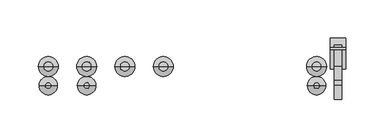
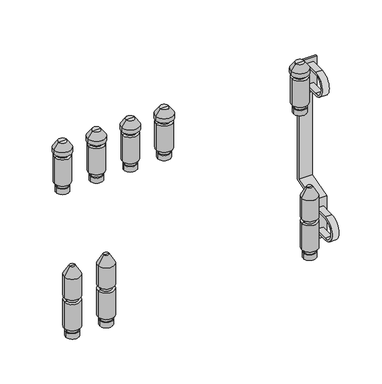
"""IFC4 building model written with IfcOpenShell, lengths in millimetres: valve geometry, PL CZ_Manifold_FT-VA : 08 circuits."""

from ifc_helpers import new_model, si_unit, point, frame, frame_2d, origin, origin_2d, place, context, project, spatial, polyline, circle_curve, trimmed, segment, composite_curve, outline, extrude, source, transform, mapped, element, save
from ifc_brep_helpers import plane_surface, cylinder_surface, revolved_surface, advanced_brep


def valve_9c135178(model_context):
    return source(origin(), model_context, "Body", "SolidModel", [
        advanced_brep(
        [(178.5, 25.0, 174.88733), (197.5, 25.0, 174.88733), (188.0, 25.0, 174.88733), (178.5, 25.0, 182.9630354), (197.5, 25.0, 182.9630354), (180.0, 25.0, 182.9630354), (196.0, 25.0, 182.9630354), (180.0, 25.0, 189.669747), (196.0, 25.0, 189.669747), (176.0, 25.0, 189.669747), (200.0, 25.0, 189.669747), (176.0, 25.0, 230.330253), (200.0, 25.0, 230.330253), (180.0, 25.0, 230.330253), (196.0, 25.0, 230.330253), (180.0, 25.0, 236.0474786), (196.0, 25.0, 236.0474786), (175.0, 25.0, 236.0474786), (201.0, 25.0, 236.0474786), (175.0, 25.0, 242.337955), (201.0, 25.0, 242.337955), (181.6551779, 25.0, 251.842534), (194.3448221, 25.0, 251.842534), (188.0, 25.0, 251.842534)],
        [
            (0, 1, circle_curve(frame((188.0, 25.0, 174.88733), z_axis=(0.0, 0.0, -1.0), x_axis=(1.0, 0.0, 0.0)), 9.5)),
            (1, 2),
            (2, 0),
            (1, 0, circle_curve(frame((188.0, 25.0, 174.88733), z_axis=(0.0, 0.0, -1.0), x_axis=(1.0, 0.0, 0.0)), 9.5)),
            (3, 4, circle_curve(frame((188.0, 25.0, 182.9630354), z_axis=(0.0, 0.0, -1.0), x_axis=(1.0, 0.0, 0.0)), 9.5)),
            (4, 1),
            (0, 3),
            (4, 3, circle_curve(frame((188.0, 25.0, 182.9630354), z_axis=(0.0, 0.0, -1.0), x_axis=(1.0, 0.0, 0.0)), 9.5)),
            (5, 6, circle_curve(frame((188.0, 25.0, 182.9630354), z_axis=(0.0, 0.0, -1.0), x_axis=(1.0, 0.0, 0.0)), 8.0)),
            (6, 4),
            (3, 5),
            (6, 5, circle_curve(frame((188.0, 25.0, 182.9630354), z_axis=(0.0, 0.0, -1.0), x_axis=(1.0, 0.0, 0.0)), 8.0)),
            (7, 8, circle_curve(frame((188.0, 25.0, 189.669747), z_axis=(0.0, 0.0, -1.0), x_axis=(1.0, 0.0, 0.0)), 8.0)),
            (8, 6),
            (5, 7),
            (8, 7, circle_curve(frame((188.0, 25.0, 189.669747), z_axis=(0.0, 0.0, -1.0), x_axis=(1.0, 0.0, 0.0)), 8.0)),
            (9, 10, circle_curve(frame((188.0, 25.0, 189.669747), z_axis=(0.0, 0.0, -1.0), x_axis=(1.0, 0.0, 0.0)), 12.0)),
            (10, 8),
            (7, 9),
            (10, 9, circle_curve(frame((188.0, 25.0, 189.669747), z_axis=(0.0, 0.0, -1.0), x_axis=(1.0, 0.0, 0.0)), 12.0)),
            (11, 12, circle_curve(frame((188.0, 25.0, 230.330253), z_axis=(0.0, 0.0, -1.0), x_axis=(1.0, 0.0, 0.0)), 12.0)),
            (12, 10),
            (9, 11),
            (12, 11, circle_curve(frame((188.0, 25.0, 230.330253), z_axis=(0.0, 0.0, -1.0), x_axis=(1.0, 0.0, 0.0)), 12.0)),
            (13, 14, circle_curve(frame((188.0, 25.0, 230.330253), z_axis=(0.0, 0.0, -1.0), x_axis=(1.0, 0.0, 0.0)), 8.0)),
            (14, 12),
            (11, 13),
            (14, 13, circle_curve(frame((188.0, 25.0, 230.330253), z_axis=(0.0, 0.0, -1.0), x_axis=(1.0, 0.0, 0.0)), 8.0)),
            (15, 16, circle_curve(frame((188.0, 25.0, 236.0474786), z_axis=(0.0, 0.0, -1.0), x_axis=(1.0, 0.0, 0.0)), 8.0)),
            (16, 14),
            (13, 15),
            (16, 15, circle_curve(frame((188.0, 25.0, 236.0474786), z_axis=(0.0, 0.0, -1.0), x_axis=(1.0, 0.0, 0.0)), 8.0)),
            (17, 18, circle_curve(frame((188.0, 25.0, 236.0474786), z_axis=(0.0, 0.0, -1.0), x_axis=(1.0, 0.0, 0.0)), 13.0)),
            (18, 16),
            (15, 17),
            (18, 17, circle_curve(frame((188.0, 25.0, 236.0474786), z_axis=(0.0, 0.0, -1.0), x_axis=(1.0, 0.0, 0.0)), 13.0)),
            (19, 20, circle_curve(frame((188.0, 25.0, 242.337955), z_axis=(0.0, 0.0, -1.0), x_axis=(1.0, 0.0, 0.0)), 13.0)),
            (20, 18),
            (17, 19),
            (20, 19, circle_curve(frame((188.0, 25.0, 242.337955), z_axis=(0.0, 0.0, -1.0), x_axis=(1.0, 0.0, 0.0)), 13.0)),
            (21, 22, circle_curve(frame((188.0, 25.0, 251.842534), z_axis=(0.0, 0.0, -1.0), x_axis=(1.0, 0.0, 0.0)), 6.3448221)),
            (22, 20),
            (19, 21),
            (22, 21, circle_curve(frame((188.0, 25.0, 251.842534), z_axis=(0.0, 0.0, -1.0), x_axis=(1.0, 0.0, 0.0)), 6.3448221)),
            (23, 22),
            (21, 23),
        ],
        [
            plane_surface(frame((188.0, 25.0, 174.88733), z_axis=(0.0, 0.0, -1.0), x_axis=(1.0, 0.0, 0.0))),
            cylinder_surface(frame((188.0, 25.0, 247.7026565), z_axis=(0.0, 0.0, 1.0), x_axis=(1.0, 0.0, 0.0)), 9.5),
            plane_surface(frame((188.0, 25.0, 182.9630354), z_axis=(0.0, 0.0, 1.0), x_axis=(1.0, 0.0, 0.0))),
            cylinder_surface(frame((188.0, 25.0, 247.7026565), z_axis=(0.0, 0.0, 1.0), x_axis=(1.0, 0.0, 0.0)), 8.0),
            plane_surface(frame((188.0, 25.0, 189.669747), z_axis=(0.0, 0.0, -1.0), x_axis=(1.0, 0.0, 0.0))),
            cylinder_surface(frame((188.0, 25.0, 247.7026565), z_axis=(0.0, 0.0, 1.0), x_axis=(1.0, 0.0, 0.0)), 12.0),
            plane_surface(frame((188.0, 25.0, 230.330253), z_axis=(0.0, 0.0, 1.0), x_axis=(1.0, 0.0, 0.0))),
            plane_surface(frame((188.0, 25.0, 236.0474786), z_axis=(0.0, 0.0, -1.0), x_axis=(1.0, 0.0, 0.0))),
            cylinder_surface(frame((188.0, 25.0, 247.7026565), z_axis=(0.0, 0.0, 1.0), x_axis=(1.0, 0.0, 0.0)), 13.0),
            revolved_surface(polyline([(201.0, 25.0, 242.337955), (194.3448221, 25.0, 251.842534)]), (188.0, 25.0, 247.7026565), (0.0, 0.0, 1.0)),
            plane_surface(frame((188.0, 25.0, 251.842534), z_axis=(0.0, 0.0, 1.0), x_axis=(1.0, 0.0, 0.0))),
        ],
        [
            (0, [[1, 2, 3]]),
            (0, [[4, -3, -2]]),
            (1, [[5, 6, -1, 7]]),
            (1, [[8, -7, -4, -6]]),
            (2, [[9, 10, -5, 11]]),
            (2, [[12, -11, -8, -10]]),
            (3, [[13, 14, -9, 15]]),
            (3, [[16, -15, -12, -14]]),
            (4, [[17, 18, -13, 19]]),
            (4, [[20, -19, -16, -18]]),
            (5, [[21, 22, -17, 23]]),
            (5, [[24, -23, -20, -22]]),
            (6, [[25, 26, -21, 27]]),
            (6, [[28, -27, -24, -26]]),
            (3, [[29, 30, -25, 31]]),
            (3, [[32, -31, -28, -30]]),
            (7, [[33, 34, -29, 35]]),
            (7, [[36, -35, -32, -34]]),
            (8, [[37, 38, -33, 39]]),
            (8, [[40, -39, -36, -38]]),
            (9, [[41, 42, -37, 43]]),
            (9, [[44, -43, -40, -42]]),
            (10, [[45, -41, 46]]),
            (10, [[-46, -44, -45]]),
        ],
    ),
        advanced_brep(
        [(128.5, 25.0, 174.88733), (147.5, 25.0, 174.88733), (138.0, 25.0, 174.88733), (128.5, 25.0, 182.9630354), (147.5, 25.0, 182.9630354), (130.0, 25.0, 182.9630354), (146.0, 25.0, 182.9630354), (130.0, 25.0, 189.669747), (146.0, 25.0, 189.669747), (126.0, 25.0, 189.669747), (150.0, 25.0, 189.669747), (126.0, 25.0, 230.330253), (150.0, 25.0, 230.330253), (130.0, 25.0, 230.330253), (146.0, 25.0, 230.330253), (130.0, 25.0, 236.0474786), (146.0, 25.0, 236.0474786), (125.0, 25.0, 236.0474786), (151.0, 25.0, 236.0474786), (125.0, 25.0, 242.337955), (151.0, 25.0, 242.337955), (131.6551779, 25.0, 251.842534), (144.3448221, 25.0, 251.842534), (138.0, 25.0, 251.842534)],
        [
            (0, 1, circle_curve(frame((138.0, 25.0, 174.88733), z_axis=(0.0, 0.0, -1.0), x_axis=(1.0, 0.0, 0.0)), 9.5)),
            (1, 2),
            (2, 0),
            (1, 0, circle_curve(frame((138.0, 25.0, 174.88733), z_axis=(0.0, 0.0, -1.0), x_axis=(1.0, 0.0, 0.0)), 9.5)),
            (3, 4, circle_curve(frame((138.0, 25.0, 182.9630354), z_axis=(0.0, 0.0, -1.0), x_axis=(1.0, 0.0, 0.0)), 9.5)),
            (4, 1),
            (0, 3),
            (4, 3, circle_curve(frame((138.0, 25.0, 182.9630354), z_axis=(0.0, 0.0, -1.0), x_axis=(1.0, 0.0, 0.0)), 9.5)),
            (5, 6, circle_curve(frame((138.0, 25.0, 182.9630354), z_axis=(0.0, 0.0, -1.0), x_axis=(1.0, 0.0, 0.0)), 8.0)),
            (6, 4),
            (3, 5),
            (6, 5, circle_curve(frame((138.0, 25.0, 182.9630354), z_axis=(0.0, 0.0, -1.0), x_axis=(1.0, 0.0, 0.0)), 8.0)),
            (7, 8, circle_curve(frame((138.0, 25.0, 189.669747), z_axis=(0.0, 0.0, -1.0), x_axis=(1.0, 0.0, 0.0)), 8.0)),
            (8, 6),
            (5, 7),
            (8, 7, circle_curve(frame((138.0, 25.0, 189.669747), z_axis=(0.0, 0.0, -1.0), x_axis=(1.0, 0.0, 0.0)), 8.0)),
            (9, 10, circle_curve(frame((138.0, 25.0, 189.669747), z_axis=(0.0, 0.0, -1.0), x_axis=(1.0, 0.0, 0.0)), 12.0)),
            (10, 8),
            (7, 9),
            (10, 9, circle_curve(frame((138.0, 25.0, 189.669747), z_axis=(0.0, 0.0, -1.0), x_axis=(1.0, 0.0, 0.0)), 12.0)),
            (11, 12, circle_curve(frame((138.0, 25.0, 230.330253), z_axis=(0.0, 0.0, -1.0), x_axis=(1.0, 0.0, 0.0)), 12.0)),
            (12, 10),
            (9, 11),
            (12, 11, circle_curve(frame((138.0, 25.0, 230.330253), z_axis=(0.0, 0.0, -1.0), x_axis=(1.0, 0.0, 0.0)), 12.0)),
            (13, 14, circle_curve(frame((138.0, 25.0, 230.330253), z_axis=(0.0, 0.0, -1.0), x_axis=(1.0, 0.0, 0.0)), 8.0)),
            (14, 12),
            (11, 13),
            (14, 13, circle_curve(frame((138.0, 25.0, 230.330253), z_axis=(0.0, 0.0, -1.0), x_axis=(1.0, 0.0, 0.0)), 8.0)),
            (15, 16, circle_curve(frame((138.0, 25.0, 236.0474786), z_axis=(0.0, 0.0, -1.0), x_axis=(1.0, 0.0, 0.0)), 8.0)),
            (16, 14),
            (13, 15),
            (16, 15, circle_curve(frame((138.0, 25.0, 236.0474786), z_axis=(0.0, 0.0, -1.0), x_axis=(1.0, 0.0, 0.0)), 8.0)),
            (17, 18, circle_curve(frame((138.0, 25.0, 236.0474786), z_axis=(0.0, 0.0, -1.0), x_axis=(1.0, 0.0, 0.0)), 13.0)),
            (18, 16),
            (15, 17),
            (18, 17, circle_curve(frame((138.0, 25.0, 236.0474786), z_axis=(0.0, 0.0, -1.0), x_axis=(1.0, 0.0, 0.0)), 13.0)),
            (19, 20, circle_curve(frame((138.0, 25.0, 242.337955), z_axis=(0.0, 0.0, -1.0), x_axis=(1.0, 0.0, 0.0)), 13.0)),
            (20, 18),
            (17, 19),
            (20, 19, circle_curve(frame((138.0, 25.0, 242.337955), z_axis=(0.0, 0.0, -1.0), x_axis=(1.0, 0.0, 0.0)), 13.0)),
            (21, 22, circle_curve(frame((138.0, 25.0, 251.842534), z_axis=(0.0, 0.0, -1.0), x_axis=(1.0, 0.0, 0.0)), 6.3448221)),
            (22, 20),
            (19, 21),
            (22, 21, circle_curve(frame((138.0, 25.0, 251.842534), z_axis=(0.0, 0.0, -1.0), x_axis=(1.0, 0.0, 0.0)), 6.3448221)),
            (23, 22),
            (21, 23),
        ],
        [
            plane_surface(frame((138.0, 25.0, 174.88733), z_axis=(0.0, 0.0, -1.0), x_axis=(1.0, 0.0, 0.0))),
            cylinder_surface(frame((138.0, 25.0, 247.7026565), z_axis=(0.0, 0.0, 1.0), x_axis=(1.0, 0.0, 0.0)), 9.5),
            plane_surface(frame((138.0, 25.0, 182.9630354), z_axis=(0.0, 0.0, 1.0), x_axis=(1.0, 0.0, 0.0))),
            cylinder_surface(frame((138.0, 25.0, 247.7026565), z_axis=(0.0, 0.0, 1.0), x_axis=(1.0, 0.0, 0.0)), 8.0),
            plane_surface(frame((138.0, 25.0, 189.669747), z_axis=(0.0, 0.0, -1.0), x_axis=(1.0, 0.0, 0.0))),
            cylinder_surface(frame((138.0, 25.0, 247.7026565), z_axis=(0.0, 0.0, 1.0), x_axis=(1.0, 0.0, 0.0)), 12.0),
            plane_surface(frame((138.0, 25.0, 230.330253), z_axis=(0.0, 0.0, 1.0), x_axis=(1.0, 0.0, 0.0))),
            plane_surface(frame((138.0, 25.0, 236.0474786), z_axis=(0.0, 0.0, -1.0), x_axis=(1.0, 0.0, 0.0))),
            cylinder_surface(frame((138.0, 25.0, 247.7026565), z_axis=(0.0, 0.0, 1.0), x_axis=(1.0, 0.0, 0.0)), 13.0),
            revolved_surface(polyline([(151.0, 25.0, 242.337955), (144.3448221, 25.0, 251.842534)]), (138.0, 25.0, 247.7026565), (0.0, 0.0, 1.0)),
            plane_surface(frame((138.0, 25.0, 251.842534), z_axis=(0.0, 0.0, 1.0), x_axis=(1.0, 0.0, 0.0))),
        ],
        [
            (0, [[1, 2, 3]]),
            (0, [[4, -3, -2]]),
            (1, [[5, 6, -1, 7]]),
            (1, [[8, -7, -4, -6]]),
            (2, [[9, 10, -5, 11]]),
            (2, [[12, -11, -8, -10]]),
            (3, [[13, 14, -9, 15]]),
            (3, [[16, -15, -12, -14]]),
            (4, [[17, 18, -13, 19]]),
            (4, [[20, -19, -16, -18]]),
            (5, [[21, 22, -17, 23]]),
            (5, [[24, -23, -20, -22]]),
            (6, [[25, 26, -21, 27]]),
            (6, [[28, -27, -24, -26]]),
            (3, [[29, 30, -25, 31]]),
            (3, [[32, -31, -28, -30]]),
            (7, [[33, 34, -29, 35]]),
            (7, [[36, -35, -32, -34]]),
            (8, [[37, 38, -33, 39]]),
            (8, [[40, -39, -36, -38]]),
            (9, [[41, 42, -37, 43]]),
            (9, [[44, -43, -40, -42]]),
            (10, [[45, -41, 46]]),
            (10, [[-46, -44, -45]]),
        ],
    ),
        advanced_brep(
        [(78.5, 0.0, -35.11267), (97.5, 0.0, -35.11267), (88.0, 0.0, -35.11267), (78.5, 0.0, -27.0369646), (97.5, 0.0, -27.0369646), (80.0, 0.0, -27.0369646), (96.0, 0.0, -27.0369646), (80.0, 0.0, -20.330253), (96.0, 0.0, -20.330253), (76.0, 0.0, -20.330253), (100.0, 0.0, -20.330253), (76.0, 0.0, 20.330253), (100.0, 0.0, 20.330253), (80.0, 0.0, 20.330253), (96.0, 0.0, 20.330253), (80.0, 0.0, 27.0474786), (96.0, 0.0, 27.0474786), (76.0, 0.0, 27.0474786), (100.0, 0.0, 27.0474786), (76.0, 0.0, 59.4084325), (100.0, 0.0, 59.4084325), (84.0, 0.0, 73.264839), (92.0, 0.0, 73.264839), (88.0, 0.0, 73.264839)],
        [
            (0, 1, circle_curve(frame((88.0, 0.0, -35.11267), z_axis=(0.0, 0.0, -1.0), x_axis=(1.0, 0.0, 0.0)), 9.5)),
            (1, 2),
            (2, 0),
            (1, 0, circle_curve(frame((88.0, 0.0, -35.11267), z_axis=(0.0, 0.0, -1.0), x_axis=(1.0, 0.0, 0.0)), 9.5)),
            (3, 4, circle_curve(frame((88.0, 0.0, -27.0369646), z_axis=(0.0, 0.0, -1.0), x_axis=(1.0, 0.0, 0.0)), 9.5)),
            (4, 1),
            (0, 3),
            (4, 3, circle_curve(frame((88.0, 0.0, -27.0369646), z_axis=(0.0, 0.0, -1.0), x_axis=(1.0, 0.0, 0.0)), 9.5)),
            (5, 6, circle_curve(frame((88.0, 0.0, -27.0369646), z_axis=(0.0, 0.0, -1.0), x_axis=(1.0, 0.0, 0.0)), 8.0)),
            (6, 4),
            (3, 5),
            (6, 5, circle_curve(frame((88.0, 0.0, -27.0369646), z_axis=(0.0, 0.0, -1.0), x_axis=(1.0, 0.0, 0.0)), 8.0)),
            (7, 8, circle_curve(frame((88.0, 0.0, -20.330253), z_axis=(0.0, 0.0, -1.0), x_axis=(1.0, 0.0, 0.0)), 8.0)),
            (8, 6),
            (5, 7),
            (8, 7, circle_curve(frame((88.0, 0.0, -20.330253), z_axis=(0.0, 0.0, -1.0), x_axis=(1.0, 0.0, 0.0)), 8.0)),
            (9, 10, circle_curve(frame((88.0, 0.0, -20.330253), z_axis=(0.0, 0.0, -1.0), x_axis=(1.0, 0.0, 0.0)), 12.0)),
            (10, 8),
            (7, 9),
            (10, 9, circle_curve(frame((88.0, 0.0, -20.330253), z_axis=(0.0, 0.0, -1.0), x_axis=(1.0, 0.0, 0.0)), 12.0)),
            (11, 12, circle_curve(frame((88.0, 0.0, 20.330253), z_axis=(0.0, 0.0, -1.0), x_axis=(1.0, 0.0, 0.0)), 12.0)),
            (12, 10),
            (9, 11),
            (12, 11, circle_curve(frame((88.0, 0.0, 20.330253), z_axis=(0.0, 0.0, -1.0), x_axis=(1.0, 0.0, 0.0)), 12.0)),
            (13, 14, circle_curve(frame((88.0, 0.0, 20.330253), z_axis=(0.0, 0.0, -1.0), x_axis=(1.0, 0.0, 0.0)), 8.0)),
            (14, 12),
            (11, 13),
            (14, 13, circle_curve(frame((88.0, 0.0, 20.330253), z_axis=(0.0, 0.0, -1.0), x_axis=(1.0, 0.0, 0.0)), 8.0)),
            (15, 16, circle_curve(frame((88.0, 0.0, 27.0474786), z_axis=(0.0, 0.0, -1.0), x_axis=(1.0, 0.0, 0.0)), 8.0)),
            (16, 14),
            (13, 15),
            (16, 15, circle_curve(frame((88.0, 0.0, 27.0474786), z_axis=(0.0, 0.0, -1.0), x_axis=(1.0, 0.0, 0.0)), 8.0)),
            (17, 18, circle_curve(frame((88.0, 0.0, 27.0474786), z_axis=(0.0, 0.0, -1.0), x_axis=(1.0, 0.0, 0.0)), 12.0)),
            (18, 16),
            (15, 17),
            (18, 17, circle_curve(frame((88.0, 0.0, 27.0474786), z_axis=(0.0, 0.0, -1.0), x_axis=(1.0, 0.0, 0.0)), 12.0)),
            (19, 20, circle_curve(frame((88.0, 0.0, 59.4084325), z_axis=(0.0, 0.0, -1.0), x_axis=(1.0, 0.0, 0.0)), 12.0)),
            (20, 18),
            (17, 19),
            (20, 19, circle_curve(frame((88.0, 0.0, 59.4084325), z_axis=(0.0, 0.0, -1.0), x_axis=(1.0, 0.0, 0.0)), 12.0)),
            (21, 22, circle_curve(frame((88.0, 0.0, 73.264839), z_axis=(0.0, 0.0, -1.0), x_axis=(1.0, 0.0, 0.0)), 4.0)),
            (22, 20),
            (19, 21),
            (22, 21, circle_curve(frame((88.0, 0.0, 73.264839), z_axis=(0.0, 0.0, -1.0), x_axis=(1.0, 0.0, 0.0)), 4.0)),
            (23, 22),
            (21, 23),
        ],
        [
            plane_surface(frame((88.0, 0.0, -35.11267), z_axis=(0.0, 0.0, -1.0), x_axis=(1.0, 0.0, 0.0))),
            cylinder_surface(frame((88.0, 0.0, 58.264839), z_axis=(0.0, 0.0, 1.0), x_axis=(1.0, 0.0, 0.0)), 9.5),
            plane_surface(frame((88.0, 0.0, -27.0369646), z_axis=(0.0, 0.0, 1.0), x_axis=(1.0, 0.0, 0.0))),
            cylinder_surface(frame((88.0, 0.0, 58.264839), z_axis=(0.0, 0.0, 1.0), x_axis=(1.0, 0.0, 0.0)), 8.0),
            plane_surface(frame((88.0, 0.0, -20.330253), z_axis=(0.0, 0.0, -1.0), x_axis=(1.0, 0.0, 0.0))),
            cylinder_surface(frame((88.0, 0.0, 58.264839), z_axis=(0.0, 0.0, 1.0), x_axis=(1.0, 0.0, 0.0)), 12.0),
            plane_surface(frame((88.0, 0.0, 20.330253), z_axis=(0.0, 0.0, 1.0), x_axis=(1.0, 0.0, 0.0))),
            plane_surface(frame((88.0, 0.0, 27.0474786), z_axis=(0.0, 0.0, -1.0), x_axis=(1.0, 0.0, 0.0))),
            revolved_surface(polyline([(100.0, 0.0, 59.4084325), (92.0, 0.0, 73.264839)]), (88.0, 0.0, 58.264839), (0.0, 0.0, 1.0)),
            plane_surface(frame((88.0, 0.0, 73.264839), z_axis=(0.0, 0.0, 1.0), x_axis=(1.0, 0.0, 0.0))),
        ],
        [
            (0, [[1, 2, 3]]),
            (0, [[4, -3, -2]]),
            (1, [[5, 6, -1, 7]]),
            (1, [[8, -7, -4, -6]]),
            (2, [[9, 10, -5, 11]]),
            (2, [[12, -11, -8, -10]]),
            (3, [[13, 14, -9, 15]]),
            (3, [[16, -15, -12, -14]]),
            (4, [[17, 18, -13, 19]]),
            (4, [[20, -19, -16, -18]]),
            (5, [[21, 22, -17, 23]]),
            (5, [[24, -23, -20, -22]]),
            (6, [[25, 26, -21, 27]]),
            (6, [[28, -27, -24, -26]]),
            (3, [[29, 30, -25, 31]]),
            (3, [[32, -31, -28, -30]]),
            (7, [[33, 34, -29, 35]]),
            (7, [[36, -35, -32, -34]]),
            (5, [[37, 38, -33, 39]]),
            (5, [[40, -39, -36, -38]]),
            (8, [[41, 42, -37, 43]]),
            (8, [[44, -43, -40, -42]]),
            (9, [[45, -41, 46]]),
            (9, [[-46, -44, -45]]),
        ],
    ),
        advanced_brep(
        [(78.5, 25.0, 174.88733), (97.5, 25.0, 174.88733), (88.0, 25.0, 174.88733), (78.5, 25.0, 182.9630354), (97.5, 25.0, 182.9630354), (80.0, 25.0, 182.9630354), (96.0, 25.0, 182.9630354), (80.0, 25.0, 189.669747), (96.0, 25.0, 189.669747), (76.0, 25.0, 189.669747), (100.0, 25.0, 189.669747), (76.0, 25.0, 230.330253), (100.0, 25.0, 230.330253), (80.0, 25.0, 230.330253), (96.0, 25.0, 230.330253), (80.0, 25.0, 236.0474786), (96.0, 25.0, 236.0474786), (75.0, 25.0, 236.0474786), (101.0, 25.0, 236.0474786), (75.0, 25.0, 242.337955), (101.0, 25.0, 242.337955), (81.6551779, 25.0, 251.842534), (94.3448221, 25.0, 251.842534), (88.0, 25.0, 251.842534)],
        [
            (0, 1, circle_curve(frame((88.0, 25.0, 174.88733), z_axis=(0.0, 0.0, -1.0), x_axis=(1.0, 0.0, 0.0)), 9.5)),
            (1, 2),
            (2, 0),
            (1, 0, circle_curve(frame((88.0, 25.0, 174.88733), z_axis=(0.0, 0.0, -1.0), x_axis=(1.0, 0.0, 0.0)), 9.5)),
            (3, 4, circle_curve(frame((88.0, 25.0, 182.9630354), z_axis=(0.0, 0.0, -1.0), x_axis=(1.0, 0.0, 0.0)), 9.5)),
            (4, 1),
            (0, 3),
            (4, 3, circle_curve(frame((88.0, 25.0, 182.9630354), z_axis=(0.0, 0.0, -1.0), x_axis=(1.0, 0.0, 0.0)), 9.5)),
            (5, 6, circle_curve(frame((88.0, 25.0, 182.9630354), z_axis=(0.0, 0.0, -1.0), x_axis=(1.0, 0.0, 0.0)), 8.0)),
            (6, 4),
            (3, 5),
            (6, 5, circle_curve(frame((88.0, 25.0, 182.9630354), z_axis=(0.0, 0.0, -1.0), x_axis=(1.0, 0.0, 0.0)), 8.0)),
            (7, 8, circle_curve(frame((88.0, 25.0, 189.669747), z_axis=(0.0, 0.0, -1.0), x_axis=(1.0, 0.0, 0.0)), 8.0)),
            (8, 6),
            (5, 7),
            (8, 7, circle_curve(frame((88.0, 25.0, 189.669747), z_axis=(0.0, 0.0, -1.0), x_axis=(1.0, 0.0, 0.0)), 8.0)),
            (9, 10, circle_curve(frame((88.0, 25.0, 189.669747), z_axis=(0.0, 0.0, -1.0), x_axis=(1.0, 0.0, 0.0)), 12.0)),
            (10, 8),
            (7, 9),
            (10, 9, circle_curve(frame((88.0, 25.0, 189.669747), z_axis=(0.0, 0.0, -1.0), x_axis=(1.0, 0.0, 0.0)), 12.0)),
            (11, 12, circle_curve(frame((88.0, 25.0, 230.330253), z_axis=(0.0, 0.0, -1.0), x_axis=(1.0, 0.0, 0.0)), 12.0)),
            (12, 10),
            (9, 11),
            (12, 11, circle_curve(frame((88.0, 25.0, 230.330253), z_axis=(0.0, 0.0, -1.0), x_axis=(1.0, 0.0, 0.0)), 12.0)),
            (13, 14, circle_curve(frame((88.0, 25.0, 230.330253), z_axis=(0.0, 0.0, -1.0), x_axis=(1.0, 0.0, 0.0)), 8.0)),
            (14, 12),
            (11, 13),
            (14, 13, circle_curve(frame((88.0, 25.0, 230.330253), z_axis=(0.0, 0.0, -1.0), x_axis=(1.0, 0.0, 0.0)), 8.0)),
            (15, 16, circle_curve(frame((88.0, 25.0, 236.0474786), z_axis=(0.0, 0.0, -1.0), x_axis=(1.0, 0.0, 0.0)), 8.0)),
            (16, 14),
            (13, 15),
            (16, 15, circle_curve(frame((88.0, 25.0, 236.0474786), z_axis=(0.0, 0.0, -1.0), x_axis=(1.0, 0.0, 0.0)), 8.0)),
            (17, 18, circle_curve(frame((88.0, 25.0, 236.0474786), z_axis=(0.0, 0.0, -1.0), x_axis=(1.0, 0.0, 0.0)), 13.0)),
            (18, 16),
            (15, 17),
            (18, 17, circle_curve(frame((88.0, 25.0, 236.0474786), z_axis=(0.0, 0.0, -1.0), x_axis=(1.0, 0.0, 0.0)), 13.0)),
            (19, 20, circle_curve(frame((88.0, 25.0, 242.337955), z_axis=(0.0, 0.0, -1.0), x_axis=(1.0, 0.0, 0.0)), 13.0)),
            (20, 18),
            (17, 19),
            (20, 19, circle_curve(frame((88.0, 25.0, 242.337955), z_axis=(0.0, 0.0, -1.0), x_axis=(1.0, 0.0, 0.0)), 13.0)),
            (21, 22, circle_curve(frame((88.0, 25.0, 251.842534), z_axis=(0.0, 0.0, -1.0), x_axis=(1.0, 0.0, 0.0)), 6.3448221)),
            (22, 20),
            (19, 21),
            (22, 21, circle_curve(frame((88.0, 25.0, 251.842534), z_axis=(0.0, 0.0, -1.0), x_axis=(1.0, 0.0, 0.0)), 6.3448221)),
            (23, 22),
            (21, 23),
        ],
        [
            plane_surface(frame((88.0, 25.0, 174.88733), z_axis=(0.0, 0.0, -1.0), x_axis=(1.0, 0.0, 0.0))),
            cylinder_surface(frame((88.0, 25.0, 247.7026565), z_axis=(0.0, 0.0, 1.0), x_axis=(1.0, 0.0, 0.0)), 9.5),
            plane_surface(frame((88.0, 25.0, 182.9630354), z_axis=(0.0, 0.0, 1.0), x_axis=(1.0, 0.0, 0.0))),
            cylinder_surface(frame((88.0, 25.0, 247.7026565), z_axis=(0.0, 0.0, 1.0), x_axis=(1.0, 0.0, 0.0)), 8.0),
            plane_surface(frame((88.0, 25.0, 189.669747), z_axis=(0.0, 0.0, -1.0), x_axis=(1.0, 0.0, 0.0))),
            cylinder_surface(frame((88.0, 25.0, 247.7026565), z_axis=(0.0, 0.0, 1.0), x_axis=(1.0, 0.0, 0.0)), 12.0),
            plane_surface(frame((88.0, 25.0, 230.330253), z_axis=(0.0, 0.0, 1.0), x_axis=(1.0, 0.0, 0.0))),
            plane_surface(frame((88.0, 25.0, 236.0474786), z_axis=(0.0, 0.0, -1.0), x_axis=(1.0, 0.0, 0.0))),
            cylinder_surface(frame((88.0, 25.0, 247.7026565), z_axis=(0.0, 0.0, 1.0), x_axis=(1.0, 0.0, 0.0)), 13.0),
            revolved_surface(polyline([(101.0, 25.0, 242.337955), (94.3448221, 25.0, 251.842534)]), (88.0, 25.0, 247.7026565), (0.0, 0.0, 1.0)),
            plane_surface(frame((88.0, 25.0, 251.842534), z_axis=(0.0, 0.0, 1.0), x_axis=(1.0, 0.0, 0.0))),
        ],
        [
            (0, [[1, 2, 3]]),
            (0, [[4, -3, -2]]),
            (1, [[5, 6, -1, 7]]),
            (1, [[8, -7, -4, -6]]),
            (2, [[9, 10, -5, 11]]),
            (2, [[12, -11, -8, -10]]),
            (3, [[13, 14, -9, 15]]),
            (3, [[16, -15, -12, -14]]),
            (4, [[17, 18, -13, 19]]),
            (4, [[20, -19, -16, -18]]),
            (5, [[21, 22, -17, 23]]),
            (5, [[24, -23, -20, -22]]),
            (6, [[25, 26, -21, 27]]),
            (6, [[28, -27, -24, -26]]),
            (3, [[29, 30, -25, 31]]),
            (3, [[32, -31, -28, -30]]),
            (7, [[33, 34, -29, 35]]),
            (7, [[36, -35, -32, -34]]),
            (8, [[37, 38, -33, 39]]),
            (8, [[40, -39, -36, -38]]),
            (9, [[41, 42, -37, 43]]),
            (9, [[44, -43, -40, -42]]),
            (10, [[45, -41, 46]]),
            (10, [[-46, -44, -45]]),
        ],
    ),
        advanced_brep(
        [(378.5, 0.0, -35.11267), (397.5, 0.0, -35.11267), (388.0, 0.0, -35.11267), (378.5, 0.0, -27.0369646), (397.5, 0.0, -27.0369646), (380.0, 0.0, -27.0369646), (396.0, 0.0, -27.0369646), (380.0, 0.0, -20.330253), (396.0, 0.0, -20.330253), (376.0, 0.0, -20.330253), (400.0, 0.0, -20.330253), (376.0, 0.0, 20.330253), (400.0, 0.0, 20.330253), (380.0, 0.0, 20.330253), (396.0, 0.0, 20.330253), (380.0, 0.0, 27.0474786), (396.0, 0.0, 27.0474786), (376.0, 0.0, 27.0474786), (400.0, 0.0, 27.0474786), (376.0, 0.0, 59.4084325), (400.0, 0.0, 59.4084325), (384.0, 0.0, 73.264839), (392.0, 0.0, 73.264839), (388.0, 0.0, 73.264839)],
        [
            (0, 1, circle_curve(frame((388.0, 0.0, -35.11267), z_axis=(0.0, 0.0, -1.0), x_axis=(1.0, 0.0, 0.0)), 9.5)),
            (1, 2),
            (2, 0),
            (1, 0, circle_curve(frame((388.0, 0.0, -35.11267), z_axis=(0.0, 0.0, -1.0), x_axis=(1.0, 0.0, 0.0)), 9.5)),
            (3, 4, circle_curve(frame((388.0, 0.0, -27.0369646), z_axis=(0.0, 0.0, -1.0), x_axis=(1.0, 0.0, 0.0)), 9.5)),
            (4, 1),
            (0, 3),
            (4, 3, circle_curve(frame((388.0, 0.0, -27.0369646), z_axis=(0.0, 0.0, -1.0), x_axis=(1.0, 0.0, 0.0)), 9.5)),
            (5, 6, circle_curve(frame((388.0, 0.0, -27.0369646), z_axis=(0.0, 0.0, -1.0), x_axis=(1.0, 0.0, 0.0)), 8.0)),
            (6, 4),
            (3, 5),
            (6, 5, circle_curve(frame((388.0, 0.0, -27.0369646), z_axis=(0.0, 0.0, -1.0), x_axis=(1.0, 0.0, 0.0)), 8.0)),
            (7, 8, circle_curve(frame((388.0, 0.0, -20.330253), z_axis=(0.0, 0.0, -1.0), x_axis=(1.0, 0.0, 0.0)), 8.0)),
            (8, 6),
            (5, 7),
            (8, 7, circle_curve(frame((388.0, 0.0, -20.330253), z_axis=(0.0, 0.0, -1.0), x_axis=(1.0, 0.0, 0.0)), 8.0)),
            (9, 10, circle_curve(frame((388.0, 0.0, -20.330253), z_axis=(0.0, 0.0, -1.0), x_axis=(1.0, 0.0, 0.0)), 12.0)),
            (10, 8),
            (7, 9),
            (10, 9, circle_curve(frame((388.0, 0.0, -20.330253), z_axis=(0.0, 0.0, -1.0), x_axis=(1.0, 0.0, 0.0)), 12.0)),
            (11, 12, circle_curve(frame((388.0, 0.0, 20.330253), z_axis=(0.0, 0.0, -1.0), x_axis=(1.0, 0.0, 0.0)), 12.0)),
            (12, 10),
            (9, 11),
            (12, 11, circle_curve(frame((388.0, 0.0, 20.330253), z_axis=(0.0, 0.0, -1.0), x_axis=(1.0, 0.0, 0.0)), 12.0)),
            (13, 14, circle_curve(frame((388.0, 0.0, 20.330253), z_axis=(0.0, 0.0, -1.0), x_axis=(1.0, 0.0, 0.0)), 8.0)),
            (14, 12),
            (11, 13),
            (14, 13, circle_curve(frame((388.0, 0.0, 20.330253), z_axis=(0.0, 0.0, -1.0), x_axis=(1.0, 0.0, 0.0)), 8.0)),
            (15, 16, circle_curve(frame((388.0, 0.0, 27.0474786), z_axis=(0.0, 0.0, -1.0), x_axis=(1.0, 0.0, 0.0)), 8.0)),
            (16, 14),
            (13, 15),
            (16, 15, circle_curve(frame((388.0, 0.0, 27.0474786), z_axis=(0.0, 0.0, -1.0), x_axis=(1.0, 0.0, 0.0)), 8.0)),
            (17, 18, circle_curve(frame((388.0, 0.0, 27.0474786), z_axis=(0.0, 0.0, -1.0), x_axis=(1.0, 0.0, 0.0)), 12.0)),
            (18, 16),
            (15, 17),
            (18, 17, circle_curve(frame((388.0, 0.0, 27.0474786), z_axis=(0.0, 0.0, -1.0), x_axis=(1.0, 0.0, 0.0)), 12.0)),
            (19, 20, circle_curve(frame((388.0, 0.0, 59.4084325), z_axis=(0.0, 0.0, -1.0), x_axis=(1.0, 0.0, 0.0)), 12.0)),
            (20, 18),
            (17, 19),
            (20, 19, circle_curve(frame((388.0, 0.0, 59.4084325), z_axis=(0.0, 0.0, -1.0), x_axis=(1.0, 0.0, 0.0)), 12.0)),
            (21, 22, circle_curve(frame((388.0, 0.0, 73.264839), z_axis=(0.0, 0.0, -1.0), x_axis=(1.0, 0.0, 0.0)), 4.0)),
            (22, 20),
            (19, 21),
            (22, 21, circle_curve(frame((388.0, 0.0, 73.264839), z_axis=(0.0, 0.0, -1.0), x_axis=(1.0, 0.0, 0.0)), 4.0)),
            (23, 22),
            (21, 23),
        ],
        [
            plane_surface(frame((388.0, 0.0, -35.11267), z_axis=(0.0, 0.0, -1.0), x_axis=(1.0, 0.0, 0.0))),
            cylinder_surface(frame((388.0, 0.0, 58.264839), z_axis=(0.0, 0.0, 1.0), x_axis=(1.0, 0.0, 0.0)), 9.5),
            plane_surface(frame((388.0, 0.0, -27.0369646), z_axis=(0.0, 0.0, 1.0), x_axis=(1.0, 0.0, 0.0))),
            cylinder_surface(frame((388.0, 0.0, 58.264839), z_axis=(0.0, 0.0, 1.0), x_axis=(1.0, 0.0, 0.0)), 8.0),
            plane_surface(frame((388.0, 0.0, -20.330253), z_axis=(0.0, 0.0, -1.0), x_axis=(1.0, 0.0, 0.0))),
            cylinder_surface(frame((388.0, 0.0, 58.264839), z_axis=(0.0, 0.0, 1.0), x_axis=(1.0, 0.0, 0.0)), 12.0),
            plane_surface(frame((388.0, 0.0, 20.330253), z_axis=(0.0, 0.0, 1.0), x_axis=(1.0, 0.0, 0.0))),
            plane_surface(frame((388.0, 0.0, 27.0474786), z_axis=(0.0, 0.0, -1.0), x_axis=(1.0, 0.0, 0.0))),
            revolved_surface(polyline([(400.0, 0.0, 59.4084325), (392.0, 0.0, 73.264839)]), (388.0, 0.0, 58.264839), (0.0, 0.0, 1.0)),
            plane_surface(frame((388.0, 0.0, 73.264839), z_axis=(0.0, 0.0, 1.0), x_axis=(1.0, 0.0, 0.0))),
        ],
        [
            (0, [[1, 2, 3]]),
            (0, [[4, -3, -2]]),
            (1, [[5, 6, -1, 7]]),
            (1, [[8, -7, -4, -6]]),
            (2, [[9, 10, -5, 11]]),
            (2, [[12, -11, -8, -10]]),
            (3, [[13, 14, -9, 15]]),
            (3, [[16, -15, -12, -14]]),
            (4, [[17, 18, -13, 19]]),
            (4, [[20, -19, -16, -18]]),
            (5, [[21, 22, -17, 23]]),
            (5, [[24, -23, -20, -22]]),
            (6, [[25, 26, -21, 27]]),
            (6, [[28, -27, -24, -26]]),
            (3, [[29, 30, -25, 31]]),
            (3, [[32, -31, -28, -30]]),
            (7, [[33, 34, -29, 35]]),
            (7, [[36, -35, -32, -34]]),
            (5, [[37, 38, -33, 39]]),
            (5, [[40, -39, -36, -38]]),
            (8, [[41, 42, -37, 43]]),
            (8, [[44, -43, -40, -42]]),
            (9, [[45, -41, 46]]),
            (9, [[-46, -44, -45]]),
        ],
    ),
        advanced_brep(
        [(378.5, 25.0, 174.88733), (397.5, 25.0, 174.88733), (388.0, 25.0, 174.88733), (378.5, 25.0, 182.9630354), (397.5, 25.0, 182.9630354), (380.0, 25.0, 182.9630354), (396.0, 25.0, 182.9630354), (380.0, 25.0, 189.669747), (396.0, 25.0, 189.669747), (376.0, 25.0, 189.669747), (400.0, 25.0, 189.669747), (376.0, 25.0, 230.330253), (400.0, 25.0, 230.330253), (380.0, 25.0, 230.330253), (396.0, 25.0, 230.330253), (380.0, 25.0, 236.0474786), (396.0, 25.0, 236.0474786), (375.0, 25.0, 236.0474786), (401.0, 25.0, 236.0474786), (375.0, 25.0, 242.337955), (401.0, 25.0, 242.337955), (381.6551779, 25.0, 251.842534), (394.3448221, 25.0, 251.842534), (388.0, 25.0, 251.842534)],
        [
            (0, 1, circle_curve(frame((388.0, 25.0, 174.88733), z_axis=(0.0, 0.0, -1.0), x_axis=(1.0, 0.0, 0.0)), 9.5)),
            (1, 2),
            (2, 0),
            (1, 0, circle_curve(frame((388.0, 25.0, 174.88733), z_axis=(0.0, 0.0, -1.0), x_axis=(1.0, 0.0, 0.0)), 9.5)),
            (3, 4, circle_curve(frame((388.0, 25.0, 182.9630354), z_axis=(0.0, 0.0, -1.0), x_axis=(1.0, 0.0, 0.0)), 9.5)),
            (4, 1),
            (0, 3),
            (4, 3, circle_curve(frame((388.0, 25.0, 182.9630354), z_axis=(0.0, 0.0, -1.0), x_axis=(1.0, 0.0, 0.0)), 9.5)),
            (5, 6, circle_curve(frame((388.0, 25.0, 182.9630354), z_axis=(0.0, 0.0, -1.0), x_axis=(1.0, 0.0, 0.0)), 8.0)),
            (6, 4),
            (3, 5),
            (6, 5, circle_curve(frame((388.0, 25.0, 182.9630354), z_axis=(0.0, 0.0, -1.0), x_axis=(1.0, 0.0, 0.0)), 8.0)),
            (7, 8, circle_curve(frame((388.0, 25.0, 189.669747), z_axis=(0.0, 0.0, -1.0), x_axis=(1.0, 0.0, 0.0)), 8.0)),
            (8, 6),
            (5, 7),
            (8, 7, circle_curve(frame((388.0, 25.0, 189.669747), z_axis=(0.0, 0.0, -1.0), x_axis=(1.0, 0.0, 0.0)), 8.0)),
            (9, 10, circle_curve(frame((388.0, 25.0, 189.669747), z_axis=(0.0, 0.0, -1.0), x_axis=(1.0, 0.0, 0.0)), 12.0)),
            (10, 8),
            (7, 9),
            (10, 9, circle_curve(frame((388.0, 25.0, 189.669747), z_axis=(0.0, 0.0, -1.0), x_axis=(1.0, 0.0, 0.0)), 12.0)),
            (11, 12, circle_curve(frame((388.0, 25.0, 230.330253), z_axis=(0.0, 0.0, -1.0), x_axis=(1.0, 0.0, 0.0)), 12.0)),
            (12, 10),
            (9, 11),
            (12, 11, circle_curve(frame((388.0, 25.0, 230.330253), z_axis=(0.0, 0.0, -1.0), x_axis=(1.0, 0.0, 0.0)), 12.0)),
            (13, 14, circle_curve(frame((388.0, 25.0, 230.330253), z_axis=(0.0, 0.0, -1.0), x_axis=(1.0, 0.0, 0.0)), 8.0)),
            (14, 12),
            (11, 13),
            (14, 13, circle_curve(frame((388.0, 25.0, 230.330253), z_axis=(0.0, 0.0, -1.0), x_axis=(1.0, 0.0, 0.0)), 8.0)),
            (15, 16, circle_curve(frame((388.0, 25.0, 236.0474786), z_axis=(0.0, 0.0, -1.0), x_axis=(1.0, 0.0, 0.0)), 8.0)),
            (16, 14),
            (13, 15),
            (16, 15, circle_curve(frame((388.0, 25.0, 236.0474786), z_axis=(0.0, 0.0, -1.0), x_axis=(1.0, 0.0, 0.0)), 8.0)),
            (17, 18, circle_curve(frame((388.0, 25.0, 236.0474786), z_axis=(0.0, 0.0, -1.0), x_axis=(1.0, 0.0, 0.0)), 13.0)),
            (18, 16),
            (15, 17),
            (18, 17, circle_curve(frame((388.0, 25.0, 236.0474786), z_axis=(0.0, 0.0, -1.0), x_axis=(1.0, 0.0, 0.0)), 13.0)),
            (19, 20, circle_curve(frame((388.0, 25.0, 242.337955), z_axis=(0.0, 0.0, -1.0), x_axis=(1.0, 0.0, 0.0)), 13.0)),
            (20, 18),
            (17, 19),
            (20, 19, circle_curve(frame((388.0, 25.0, 242.337955), z_axis=(0.0, 0.0, -1.0), x_axis=(1.0, 0.0, 0.0)), 13.0)),
            (21, 22, circle_curve(frame((388.0, 25.0, 251.842534), z_axis=(0.0, 0.0, -1.0), x_axis=(1.0, 0.0, 0.0)), 6.3448221)),
            (22, 20),
            (19, 21),
            (22, 21, circle_curve(frame((388.0, 25.0, 251.842534), z_axis=(0.0, 0.0, -1.0), x_axis=(1.0, 0.0, 0.0)), 6.3448221)),
            (23, 22),
            (21, 23),
        ],
        [
            plane_surface(frame((388.0, 25.0, 174.88733), z_axis=(0.0, 0.0, -1.0), x_axis=(1.0, 0.0, 0.0))),
            cylinder_surface(frame((388.0, 25.0, 247.7026565), z_axis=(0.0, 0.0, 1.0), x_axis=(1.0, 0.0, 0.0)), 9.5),
            plane_surface(frame((388.0, 25.0, 182.9630354), z_axis=(0.0, 0.0, 1.0), x_axis=(1.0, 0.0, 0.0))),
            cylinder_surface(frame((388.0, 25.0, 247.7026565), z_axis=(0.0, 0.0, 1.0), x_axis=(1.0, 0.0, 0.0)), 8.0),
            plane_surface(frame((388.0, 25.0, 189.669747), z_axis=(0.0, 0.0, -1.0), x_axis=(1.0, 0.0, 0.0))),
            cylinder_surface(frame((388.0, 25.0, 247.7026565), z_axis=(0.0, 0.0, 1.0), x_axis=(1.0, 0.0, 0.0)), 12.0),
            plane_surface(frame((388.0, 25.0, 230.330253), z_axis=(0.0, 0.0, 1.0), x_axis=(1.0, 0.0, 0.0))),
            plane_surface(frame((388.0, 25.0, 236.0474786), z_axis=(0.0, 0.0, -1.0), x_axis=(1.0, 0.0, 0.0))),
            cylinder_surface(frame((388.0, 25.0, 247.7026565), z_axis=(0.0, 0.0, 1.0), x_axis=(1.0, 0.0, 0.0)), 13.0),
            revolved_surface(polyline([(401.0, 25.0, 242.337955), (394.3448221, 25.0, 251.842534)]), (388.0, 25.0, 247.7026565), (0.0, 0.0, 1.0)),
            plane_surface(frame((388.0, 25.0, 251.842534), z_axis=(0.0, 0.0, 1.0), x_axis=(1.0, 0.0, 0.0))),
        ],
        [
            (0, [[1, 2, 3]]),
            (0, [[4, -3, -2]]),
            (1, [[5, 6, -1, 7]]),
            (1, [[8, -7, -4, -6]]),
            (2, [[9, 10, -5, 11]]),
            (2, [[12, -11, -8, -10]]),
            (3, [[13, 14, -9, 15]]),
            (3, [[16, -15, -12, -14]]),
            (4, [[17, 18, -13, 19]]),
            (4, [[20, -19, -16, -18]]),
            (5, [[21, 22, -17, 23]]),
            (5, [[24, -23, -20, -22]]),
            (6, [[25, 26, -21, 27]]),
            (6, [[28, -27, -24, -26]]),
            (3, [[29, 30, -25, 31]]),
            (3, [[32, -31, -28, -30]]),
            (7, [[33, 34, -29, 35]]),
            (7, [[36, -35, -32, -34]]),
            (8, [[37, 38, -33, 39]]),
            (8, [[40, -39, -36, -38]]),
            (9, [[41, 42, -37, 43]]),
            (9, [[44, -43, -40, -42]]),
            (10, [[45, -41, 46]]),
            (10, [[-46, -44, -45]]),
        ],
    ),
        advanced_brep(
        [(28.5, 25.0, 174.88733), (47.5, 25.0, 174.88733), (38.0, 25.0, 174.88733), (28.5, 25.0, 182.9630354), (47.5, 25.0, 182.9630354), (30.0, 25.0, 182.9630354), (46.0, 25.0, 182.9630354), (30.0, 25.0, 189.669747), (46.0, 25.0, 189.669747), (26.0, 25.0, 189.669747), (50.0, 25.0, 189.669747), (26.0, 25.0, 230.330253), (50.0, 25.0, 230.330253), (30.0, 25.0, 230.330253), (46.0, 25.0, 230.330253), (30.0, 25.0, 236.0474786), (46.0, 25.0, 236.0474786), (25.0, 25.0, 236.0474786), (51.0, 25.0, 236.0474786), (25.0, 25.0, 242.337955), (51.0, 25.0, 242.337955), (31.6551779, 25.0, 251.842534), (44.3448221, 25.0, 251.842534), (38.0, 25.0, 251.842534)],
        [
            (0, 1, circle_curve(frame((38.0, 25.0, 174.88733), z_axis=(0.0, 0.0, -1.0), x_axis=(1.0, 0.0, 0.0)), 9.5)),
            (1, 2),
            (2, 0),
            (1, 0, circle_curve(frame((38.0, 25.0, 174.88733), z_axis=(0.0, 0.0, -1.0), x_axis=(1.0, 0.0, 0.0)), 9.5)),
            (3, 4, circle_curve(frame((38.0, 25.0, 182.9630354), z_axis=(0.0, 0.0, -1.0), x_axis=(1.0, 0.0, 0.0)), 9.5)),
            (4, 1),
            (0, 3),
            (4, 3, circle_curve(frame((38.0, 25.0, 182.9630354), z_axis=(0.0, 0.0, -1.0), x_axis=(1.0, 0.0, 0.0)), 9.5)),
            (5, 6, circle_curve(frame((38.0, 25.0, 182.9630354), z_axis=(0.0, 0.0, -1.0), x_axis=(1.0, 0.0, 0.0)), 8.0)),
            (6, 4),
            (3, 5),
            (6, 5, circle_curve(frame((38.0, 25.0, 182.9630354), z_axis=(0.0, 0.0, -1.0), x_axis=(1.0, 0.0, 0.0)), 8.0)),
            (7, 8, circle_curve(frame((38.0, 25.0, 189.669747), z_axis=(0.0, 0.0, -1.0), x_axis=(1.0, 0.0, 0.0)), 8.0)),
            (8, 6),
            (5, 7),
            (8, 7, circle_curve(frame((38.0, 25.0, 189.669747), z_axis=(0.0, 0.0, -1.0), x_axis=(1.0, 0.0, 0.0)), 8.0)),
            (9, 10, circle_curve(frame((38.0, 25.0, 189.669747), z_axis=(0.0, 0.0, -1.0), x_axis=(1.0, 0.0, 0.0)), 12.0)),
            (10, 8),
            (7, 9),
            (10, 9, circle_curve(frame((38.0, 25.0, 189.669747), z_axis=(0.0, 0.0, -1.0), x_axis=(1.0, 0.0, 0.0)), 12.0)),
            (11, 12, circle_curve(frame((38.0, 25.0, 230.330253), z_axis=(0.0, 0.0, -1.0), x_axis=(1.0, 0.0, 0.0)), 12.0)),
            (12, 10),
            (9, 11),
            (12, 11, circle_curve(frame((38.0, 25.0, 230.330253), z_axis=(0.0, 0.0, -1.0), x_axis=(1.0, 0.0, 0.0)), 12.0)),
            (13, 14, circle_curve(frame((38.0, 25.0, 230.330253), z_axis=(0.0, 0.0, -1.0), x_axis=(1.0, 0.0, 0.0)), 8.0)),
            (14, 12),
            (11, 13),
            (14, 13, circle_curve(frame((38.0, 25.0, 230.330253), z_axis=(0.0, 0.0, -1.0), x_axis=(1.0, 0.0, 0.0)), 8.0)),
            (15, 16, circle_curve(frame((38.0, 25.0, 236.0474786), z_axis=(0.0, 0.0, -1.0), x_axis=(1.0, 0.0, 0.0)), 8.0)),
            (16, 14),
            (13, 15),
            (16, 15, circle_curve(frame((38.0, 25.0, 236.0474786), z_axis=(0.0, 0.0, -1.0), x_axis=(1.0, 0.0, 0.0)), 8.0)),
            (17, 18, circle_curve(frame((38.0, 25.0, 236.0474786), z_axis=(0.0, 0.0, -1.0), x_axis=(1.0, 0.0, 0.0)), 13.0)),
            (18, 16),
            (15, 17),
            (18, 17, circle_curve(frame((38.0, 25.0, 236.0474786), z_axis=(0.0, 0.0, -1.0), x_axis=(1.0, 0.0, 0.0)), 13.0)),
            (19, 20, circle_curve(frame((38.0, 25.0, 242.337955), z_axis=(0.0, 0.0, -1.0), x_axis=(1.0, 0.0, 0.0)), 13.0)),
            (20, 18),
            (17, 19),
            (20, 19, circle_curve(frame((38.0, 25.0, 242.337955), z_axis=(0.0, 0.0, -1.0), x_axis=(1.0, 0.0, 0.0)), 13.0)),
            (21, 22, circle_curve(frame((38.0, 25.0, 251.842534), z_axis=(0.0, 0.0, -1.0), x_axis=(1.0, 0.0, 0.0)), 6.3448221)),
            (22, 20),
            (19, 21),
            (22, 21, circle_curve(frame((38.0, 25.0, 251.842534), z_axis=(0.0, 0.0, -1.0), x_axis=(1.0, 0.0, 0.0)), 6.3448221)),
            (23, 22),
            (21, 23),
        ],
        [
            plane_surface(frame((38.0, 25.0, 174.88733), z_axis=(0.0, 0.0, -1.0), x_axis=(1.0, 0.0, 0.0))),
            cylinder_surface(frame((38.0, 25.0, 247.7026565), z_axis=(0.0, 0.0, 1.0), x_axis=(1.0, 0.0, 0.0)), 9.5),
            plane_surface(frame((38.0, 25.0, 182.9630354), z_axis=(0.0, 0.0, 1.0), x_axis=(1.0, 0.0, 0.0))),
            cylinder_surface(frame((38.0, 25.0, 247.7026565), z_axis=(0.0, 0.0, 1.0), x_axis=(1.0, 0.0, 0.0)), 8.0),
            plane_surface(frame((38.0, 25.0, 189.669747), z_axis=(0.0, 0.0, -1.0), x_axis=(1.0, 0.0, 0.0))),
            cylinder_surface(frame((38.0, 25.0, 247.7026565), z_axis=(0.0, 0.0, 1.0), x_axis=(1.0, 0.0, 0.0)), 12.0),
            plane_surface(frame((38.0, 25.0, 230.330253), z_axis=(0.0, 0.0, 1.0), x_axis=(1.0, 0.0, 0.0))),
            plane_surface(frame((38.0, 25.0, 236.0474786), z_axis=(0.0, 0.0, -1.0), x_axis=(1.0, 0.0, 0.0))),
            cylinder_surface(frame((38.0, 25.0, 247.7026565), z_axis=(0.0, 0.0, 1.0), x_axis=(1.0, 0.0, 0.0)), 13.0),
            revolved_surface(polyline([(51.0, 25.0, 242.337955), (44.3448221, 25.0, 251.842534)]), (38.0, 25.0, 247.7026565), (0.0, 0.0, 1.0)),
            plane_surface(frame((38.0, 25.0, 251.842534), z_axis=(0.0, 0.0, 1.0), x_axis=(1.0, 0.0, 0.0))),
        ],
        [
            (0, [[1, 2, 3]]),
            (0, [[4, -3, -2]]),
            (1, [[5, 6, -1, 7]]),
            (1, [[8, -7, -4, -6]]),
            (2, [[9, 10, -5, 11]]),
            (2, [[12, -11, -8, -10]]),
            (3, [[13, 14, -9, 15]]),
            (3, [[16, -15, -12, -14]]),
            (4, [[17, 18, -13, 19]]),
            (4, [[20, -19, -16, -18]]),
            (5, [[21, 22, -17, 23]]),
            (5, [[24, -23, -20, -22]]),
            (6, [[25, 26, -21, 27]]),
            (6, [[28, -27, -24, -26]]),
            (3, [[29, 30, -25, 31]]),
            (3, [[32, -31, -28, -30]]),
            (7, [[33, 34, -29, 35]]),
            (7, [[36, -35, -32, -34]]),
            (8, [[37, 38, -33, 39]]),
            (8, [[40, -39, -36, -38]]),
            (9, [[41, 42, -37, 43]]),
            (9, [[44, -43, -40, -42]]),
            (10, [[45, -41, 46]]),
            (10, [[-46, -44, -45]]),
        ],
    ),
        advanced_brep(
        [(28.5, 0.0, -35.11267), (47.5, 0.0, -35.11267), (38.0, 0.0, -35.11267), (28.5, 0.0, -27.0369646), (47.5, 0.0, -27.0369646), (30.0, 0.0, -27.0369646), (46.0, 0.0, -27.0369646), (30.0, 0.0, -20.330253), (46.0, 0.0, -20.330253), (26.0, 0.0, -20.330253), (50.0, 0.0, -20.330253), (26.0, 0.0, 20.330253), (50.0, 0.0, 20.330253), (30.0, 0.0, 20.330253), (46.0, 0.0, 20.330253), (30.0, 0.0, 27.0474786), (46.0, 0.0, 27.0474786), (26.0, 0.0, 27.0474786), (50.0, 0.0, 27.0474786), (26.0, 0.0, 59.4084325), (50.0, 0.0, 59.4084325), (34.0, 0.0, 73.264839), (42.0, 0.0, 73.264839), (38.0, 0.0, 73.264839)],
        [
            (0, 1, circle_curve(frame((38.0, 0.0, -35.11267), z_axis=(0.0, 0.0, -1.0), x_axis=(1.0, 0.0, 0.0)), 9.5)),
            (1, 2),
            (2, 0),
            (1, 0, circle_curve(frame((38.0, 0.0, -35.11267), z_axis=(0.0, 0.0, -1.0), x_axis=(1.0, 0.0, 0.0)), 9.5)),
            (3, 4, circle_curve(frame((38.0, 0.0, -27.0369646), z_axis=(0.0, 0.0, -1.0), x_axis=(1.0, 0.0, 0.0)), 9.5)),
            (4, 1),
            (0, 3),
            (4, 3, circle_curve(frame((38.0, 0.0, -27.0369646), z_axis=(0.0, 0.0, -1.0), x_axis=(1.0, 0.0, 0.0)), 9.5)),
            (5, 6, circle_curve(frame((38.0, 0.0, -27.0369646), z_axis=(0.0, 0.0, -1.0), x_axis=(1.0, 0.0, 0.0)), 8.0)),
            (6, 4),
            (3, 5),
            (6, 5, circle_curve(frame((38.0, 0.0, -27.0369646), z_axis=(0.0, 0.0, -1.0), x_axis=(1.0, 0.0, 0.0)), 8.0)),
            (7, 8, circle_curve(frame((38.0, 0.0, -20.330253), z_axis=(0.0, 0.0, -1.0), x_axis=(1.0, 0.0, 0.0)), 8.0)),
            (8, 6),
            (5, 7),
            (8, 7, circle_curve(frame((38.0, 0.0, -20.330253), z_axis=(0.0, 0.0, -1.0), x_axis=(1.0, 0.0, 0.0)), 8.0)),
            (9, 10, circle_curve(frame((38.0, 0.0, -20.330253), z_axis=(0.0, 0.0, -1.0), x_axis=(1.0, 0.0, 0.0)), 12.0)),
            (10, 8),
            (7, 9),
            (10, 9, circle_curve(frame((38.0, 0.0, -20.330253), z_axis=(0.0, 0.0, -1.0), x_axis=(1.0, 0.0, 0.0)), 12.0)),
            (11, 12, circle_curve(frame((38.0, 0.0, 20.330253), z_axis=(0.0, 0.0, -1.0), x_axis=(1.0, 0.0, 0.0)), 12.0)),
            (12, 10),
            (9, 11),
            (12, 11, circle_curve(frame((38.0, 0.0, 20.330253), z_axis=(0.0, 0.0, -1.0), x_axis=(1.0, 0.0, 0.0)), 12.0)),
            (13, 14, circle_curve(frame((38.0, 0.0, 20.330253), z_axis=(0.0, 0.0, -1.0), x_axis=(1.0, 0.0, 0.0)), 8.0)),
            (14, 12),
            (11, 13),
            (14, 13, circle_curve(frame((38.0, 0.0, 20.330253), z_axis=(0.0, 0.0, -1.0), x_axis=(1.0, 0.0, 0.0)), 8.0)),
            (15, 16, circle_curve(frame((38.0, 0.0, 27.0474786), z_axis=(0.0, 0.0, -1.0), x_axis=(1.0, 0.0, 0.0)), 8.0)),
            (16, 14),
            (13, 15),
            (16, 15, circle_curve(frame((38.0, 0.0, 27.0474786), z_axis=(0.0, 0.0, -1.0), x_axis=(1.0, 0.0, 0.0)), 8.0)),
            (17, 18, circle_curve(frame((38.0, 0.0, 27.0474786), z_axis=(0.0, 0.0, -1.0), x_axis=(1.0, 0.0, 0.0)), 12.0)),
            (18, 16),
            (15, 17),
            (18, 17, circle_curve(frame((38.0, 0.0, 27.0474786), z_axis=(0.0, 0.0, -1.0), x_axis=(1.0, 0.0, 0.0)), 12.0)),
            (19, 20, circle_curve(frame((38.0, 0.0, 59.4084325), z_axis=(0.0, 0.0, -1.0), x_axis=(1.0, 0.0, 0.0)), 12.0)),
            (20, 18),
            (17, 19),
            (20, 19, circle_curve(frame((38.0, 0.0, 59.4084325), z_axis=(0.0, 0.0, -1.0), x_axis=(1.0, 0.0, 0.0)), 12.0)),
            (21, 22, circle_curve(frame((38.0, 0.0, 73.264839), z_axis=(0.0, 0.0, -1.0), x_axis=(1.0, 0.0, 0.0)), 4.0)),
            (22, 20),
            (19, 21),
            (22, 21, circle_curve(frame((38.0, 0.0, 73.264839), z_axis=(0.0, 0.0, -1.0), x_axis=(1.0, 0.0, 0.0)), 4.0)),
            (23, 22),
            (21, 23),
        ],
        [
            plane_surface(frame((38.0, 0.0, -35.11267), z_axis=(0.0, 0.0, -1.0), x_axis=(1.0, 0.0, 0.0))),
            cylinder_surface(frame((38.0, 0.0, 58.264839), z_axis=(0.0, 0.0, 1.0), x_axis=(1.0, 0.0, 0.0)), 9.5),
            plane_surface(frame((38.0, 0.0, -27.0369646), z_axis=(0.0, 0.0, 1.0), x_axis=(1.0, 0.0, 0.0))),
            cylinder_surface(frame((38.0, 0.0, 58.264839), z_axis=(0.0, 0.0, 1.0), x_axis=(1.0, 0.0, 0.0)), 8.0),
            plane_surface(frame((38.0, 0.0, -20.330253), z_axis=(0.0, 0.0, -1.0), x_axis=(1.0, 0.0, 0.0))),
            cylinder_surface(frame((38.0, 0.0, 58.264839), z_axis=(0.0, 0.0, 1.0), x_axis=(1.0, 0.0, 0.0)), 12.0),
            plane_surface(frame((38.0, 0.0, 20.330253), z_axis=(0.0, 0.0, 1.0), x_axis=(1.0, 0.0, 0.0))),
            plane_surface(frame((38.0, 0.0, 27.0474786), z_axis=(0.0, 0.0, -1.0), x_axis=(1.0, 0.0, 0.0))),
            revolved_surface(polyline([(50.0, 0.0, 59.4084325), (42.0, 0.0, 73.264839)]), (38.0, 0.0, 58.264839), (0.0, 0.0, 1.0)),
            plane_surface(frame((38.0, 0.0, 73.264839), z_axis=(0.0, 0.0, 1.0), x_axis=(1.0, 0.0, 0.0))),
        ],
        [
            (0, [[1, 2, 3]]),
            (0, [[4, -3, -2]]),
            (1, [[5, 6, -1, 7]]),
            (1, [[8, -7, -4, -6]]),
            (2, [[9, 10, -5, 11]]),
            (2, [[12, -11, -8, -10]]),
            (3, [[13, 14, -9, 15]]),
            (3, [[16, -15, -12, -14]]),
            (4, [[17, 18, -13, 19]]),
            (4, [[20, -19, -16, -18]]),
            (5, [[21, 22, -17, 23]]),
            (5, [[24, -23, -20, -22]]),
            (6, [[25, 26, -21, 27]]),
            (6, [[28, -27, -24, -26]]),
            (3, [[29, 30, -25, 31]]),
            (3, [[32, -31, -28, -30]]),
            (7, [[33, 34, -29, 35]]),
            (7, [[36, -35, -32, -34]]),
            (5, [[37, 38, -33, 39]]),
            (5, [[40, -39, -36, -38]]),
            (8, [[41, 42, -37, 43]]),
            (8, [[44, -43, -40, -42]]),
            (9, [[45, -41, 46]]),
            (9, [[-46, -44, -45]]),
        ],
    ),
        extrude(outline(composite_curve([segment(trimmed(circle_curve(origin_2d(), 15.0), [point((0.0, 15.0))], [point((0.0, -15.0))], True, "CARTESIAN"), True, "CONTINUOUS"), segment(polyline([(0.0, -15.0), (27.6751284, -15.0), (27.6751284, -18.0), (0.0, -18.0)]), True, "CONTINUOUS"), segment(trimmed(circle_curve(origin_2d(), 18.0), [point((0.0, -18.0))], [point((0.0, 18.0))], False, "CARTESIAN"), True, "CONTINUOUS"), segment(polyline([(0.0, 18.0), (27.6751284, 18.0), (27.6751284, 15.0), (0.0, 15.0)]), True, "CONTINUOUS")], self_intersect=False)), frame((411.0, 0.0, 0.0), z_axis=(1.0, 0.0, 0.0), x_axis=(0.0, 1.0, 0.0)), (0.0, 0.0, 1.0), 10.0),
        extrude(outline(composite_curve([segment(trimmed(circle_curve(frame_2d((25.0, 210.0)), 15.0), [point((25.0, 225.0))], [point((25.0, 195.0))], True, "CARTESIAN"), True, "CONTINUOUS"), segment(polyline([(25.0, 195.0), (52.6751284, 195.0), (52.6751284, 192.0), (25.0, 192.0)]), True, "CONTINUOUS"), segment(trimmed(circle_curve(frame_2d((25.0, 210.0)), 18.0), [point((25.0, 192.0))], [point((25.0, 228.0))], False, "CARTESIAN"), True, "CONTINUOUS"), segment(polyline([(25.0, 228.0), (52.6751284, 228.0), (52.6751284, 225.0), (25.0, 225.0)]), True, "CONTINUOUS")], self_intersect=False)), frame((411.0, 0.0, 0.0), z_axis=(1.0, 0.0, 0.0), x_axis=(0.0, 1.0, 0.0)), (0.0, 0.0, 1.0), 10.0),
        extrude(outline(polyline([(62.0, 182.8840762), (62.0, 40.6095793), (25.0, 30.0), (25.0, -30.0), (22.0, -30.0), (22.0, 32.2606622), (59.0, 42.8702414), (59.0, 180.3667773), (47.0, 182.4827011), (47.0, 235.0), (50.0, 235.0), (50.0, 185.0), (62.0, 182.8840762)])), frame((406.0, 0.0, 0.0), z_axis=(1.0, 0.0, 0.0), x_axis=(0.0, 1.0, 0.0)), (0.0, 0.0, 1.0), 20.0),
    ])


if __name__ == "__main__":
    model = new_model("IFC4")
    model_context = context("Model", 3, world=origin())
    ifc_project = project(units=[si_unit("LENGTHUNIT", "METRE", prefix="MILLI")], contexts=[model_context])
    site = spatial("IfcSite", under=ifc_project)
    building = spatial("IfcBuilding", under=site)
    placement = place(None, origin())
    valve_shape = valve_9c135178(model_context)
    element("IfcValve", 1, ObjectType="PL CZ_Manifold_FT-VA : 08 circuits", at=placement, inside=building, context=model_context, shape_type="MappedRepresentation", body=[
        mapped(valve_shape, transform((0.0, 0.0, 0.0), x_axis=(1.0, 0.0, 0.0), y_axis=(0.0, 1.0, 0.0), z_axis=(0.0, 0.0, 1.0))),
    ])
    save(model, "model.ifc")
